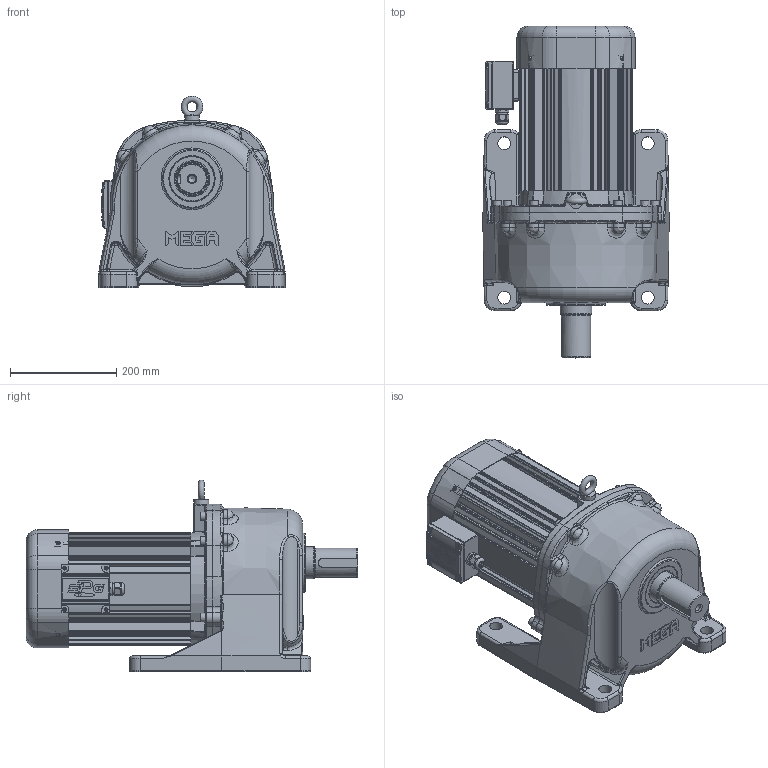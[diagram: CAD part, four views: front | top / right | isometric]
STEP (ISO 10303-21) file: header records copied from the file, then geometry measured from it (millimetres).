
FILE_DESCRIPTION(/* description */ (''),/* implementation_level */ '2;1');
FILE_NAME(/* name */ 'Z:\동력 3D 파일\PML205_3.7kW_3D.stp',/* time_stamp */ '2021-11-30T16:12:55+09:00',/* author */ ('jaebok'),/* organization */ (''),/* preprocessor_version */ 'ST-DEVELOPER v18.1',/* originating_system */ 'Autodesk Inventor 2022',/* authorisation */ '');
FILE_SCHEMA (('AUTOMOTIVE_DESIGN { 1 0 10303 214 3 1 1 }'));
Length unit declared in the file: millimetre
Products named in the file (1): 부품20
Bounding box: 350 x 623.5 x 360.48 mm (x, y, z)
Volume: 9601214.2 mm3; surface area: 1799289.4 mm2
Topology: 6 solids, 45 shells, 3481 faces, 8585 edges, 5155 vertices
Faces by surface type: cylinder 1026, plane 1020, bspline 680, torus 453, cone 171, sphere 131
Full cylindrical faces by diameter (mm): 3.25 x1, 3.6 x4, 4 x21, 4.5 x4, 5 x18, 6 x5, 6.647 x4, 7 x8, 8 x5, 8.376 x9, 9 x4, 10 x9, 10.106 x1, 11 x8, 12 x1, 12.5 x1, 13.835 x1, 15 x1, 16 x8, 20 x2, 21 x1, 23.6 x1, 24 x4, 25 x1, 26 x1, 28 x1, 31 x1, 36 x1, 45 x1, 48 x1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
Entity records: 131600 total; most frequent: CARTESIAN_POINT 49087, ORIENTED_EDGE 16864, DIRECTION 16194, EDGE_CURVE 8432, AXIS2_PLACEMENT_3D 6599, VERTEX_POINT 5155, EDGE_LOOP 3741, CIRCLE 3723
